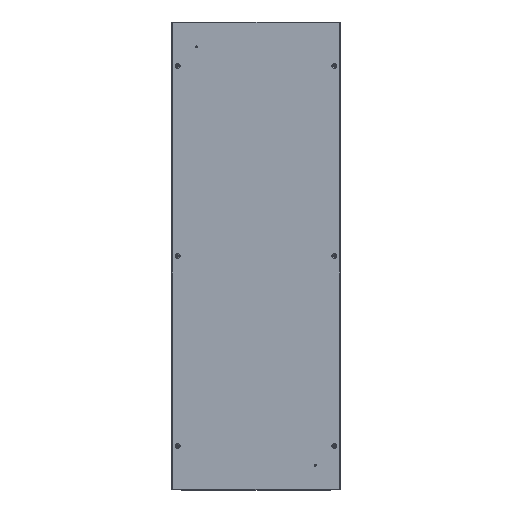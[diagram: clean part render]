
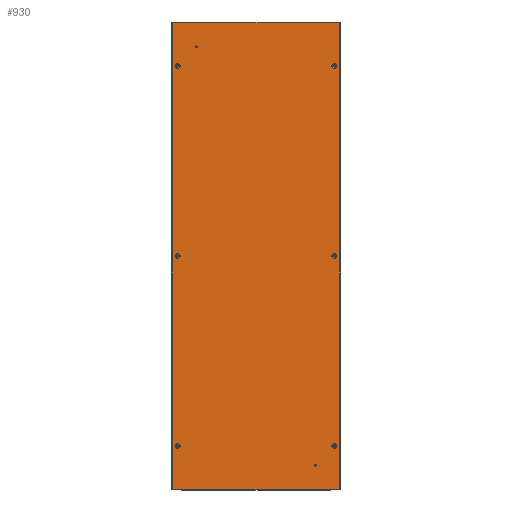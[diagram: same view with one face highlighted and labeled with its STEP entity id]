
A CAD part, top view. The second image highlights one B-rep face of the part: STEP entity #930.
In plain terms, the highlighted planar face has unit normal (0, 0, 1).
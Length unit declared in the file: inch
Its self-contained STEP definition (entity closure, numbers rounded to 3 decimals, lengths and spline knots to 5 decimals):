
#176 = EDGE_CURVE ( 'NONE', #5387, #3804, #2799, .T. ) ;
#190 = EDGE_CURVE ( 'NONE', #3899, #3805, #2814, .T. ) ;
#210 = EDGE_CURVE ( 'NONE', #3900, #3882, #2837, .T. ) ;
#278 = EDGE_CURVE ( 'NONE', #3867, #3821, #2111, .T. ) ;
#279 = EDGE_CURVE ( 'NONE', #3808, #3867, #2104, .T. ) ;
#280 = EDGE_CURVE ( 'NONE', #3821, #3818, #2115, .T. ) ;
#281 = EDGE_CURVE ( 'NONE', #3882, #3900, #2119, .T. ) ;
#282 = EDGE_CURVE ( 'NONE', #3933, #3926, #2120, .T. ) ;
#283 = EDGE_CURVE ( 'NONE', #3804, #5387, #2122, .T. ) ;
#284 = EDGE_CURVE ( 'NONE', #3818, #3808, #2106, .T. ) ;
#285 = EDGE_CURVE ( 'NONE', #3993, #5708, #2123, .T. ) ;
#286 = EDGE_CURVE ( 'NONE', #3805, #3899, #2125, .T. ) ;
#287 = EDGE_CURVE ( 'NONE', #5344, #3851, #2127, .T. ) ;
#543 = CARTESIAN_POINT ( 'NONE',  ( 10.1375, 0., 0.055 ) ) ;
#930 = ADVANCED_FACE ( 'NONE', ( #2716, #2715, #2719, #2721, #2717, #2714, #2718 ), #4042, .T. ) ;
#1044 = EDGE_CURVE ( 'NONE', #3926, #3933, #2047, .T. ) ;
#1098 = EDGE_CURVE ( 'NONE', #5708, #3993, #1877, .T. ) ;
#1205 = EDGE_CURVE ( 'NONE', #3851, #5344, #6676, .T. ) ;
#1214 = AXIS2_PLACEMENT_3D ( 'NONE', #5339, #5337, #5336 ) ;
#1229 = AXIS2_PLACEMENT_3D ( 'NONE', #5279, #5278, #5277 ) ;
#1247 = AXIS2_PLACEMENT_3D ( 'NONE', #1704, #1700, #1696 ) ;
#1269 = AXIS2_PLACEMENT_3D ( 'NONE', #3785, #3769, #3773 ) ;
#1270 = AXIS2_PLACEMENT_3D ( 'NONE', #3781, #3779, #3768 ) ;
#1271 = AXIS2_PLACEMENT_3D ( 'NONE', #3780, #3774, #3783 ) ;
#1272 = AXIS2_PLACEMENT_3D ( 'NONE', #3788, #3777, #3764 ) ;
#1274 = AXIS2_PLACEMENT_3D ( 'NONE', #3786, #3789, #3766 ) ;
#1275 = AXIS2_PLACEMENT_3D ( 'NONE', #3763, #3778, #3784 ) ;
#1338 = AXIS2_PLACEMENT_3D ( 'NONE', #4038, #4049, #4050 ) ;
#1427 = AXIS2_PLACEMENT_3D ( 'NONE', #2726, #2727, #2728 ) ;
#1467 = AXIS2_PLACEMENT_3D ( 'NONE', #543, #2363, #2364 ) ;
#1510 = AXIS2_PLACEMENT_3D ( 'NONE', #3427, #3429, #3430 ) ;
#1696 = DIRECTION ( 'NONE',  ( 0., -1., 0. ) ) ;
#1700 = DIRECTION ( 'NONE',  ( 0., 0., 1. ) ) ;
#1704 = CARTESIAN_POINT ( 'NONE',  ( -10.1375, 24.6065, 0.055 ) ) ;
#1877 = CIRCLE ( 'NONE', #1467, 0.3115 ) ;
#2047 = CIRCLE ( 'NONE', #1427, 0.3115 ) ;
#2103 = VECTOR ( 'NONE', #3787, 39.37008 ) ;
#2104 = LINE ( 'NONE', #3770, #2113 ) ;
#2106 = LINE ( 'NONE', #3765, #2117 ) ;
#2111 = LINE ( 'NONE', #3795, #2103 ) ;
#2113 = VECTOR ( 'NONE', #3771, 39.37008 ) ;
#2115 = LINE ( 'NONE', #3772, #2116 ) ;
#2116 = VECTOR ( 'NONE', #3775, 39.37008 ) ;
#2117 = VECTOR ( 'NONE', #3767, 39.37008 ) ;
#2119 = CIRCLE ( 'NONE', #1270, 0.3115 ) ;
#2120 = CIRCLE ( 'NONE', #1269, 0.3115 ) ;
#2122 = CIRCLE ( 'NONE', #1271, 0.3115 ) ;
#2123 = CIRCLE ( 'NONE', #1274, 0.3115 ) ;
#2125 = CIRCLE ( 'NONE', #1272, 0.3115 ) ;
#2127 = CIRCLE ( 'NONE', #1275, 0.3115 ) ;
#2363 = DIRECTION ( 'NONE',  ( 0., 0., 1. ) ) ;
#2364 = DIRECTION ( 'NONE',  ( 0., -1., 0. ) ) ;
#2576 = ORIENTED_EDGE ( 'NONE', *, *, #282, .F. ) ;
#2577 = ORIENTED_EDGE ( 'NONE', *, *, #1044, .F. ) ;
#2578 = ORIENTED_EDGE ( 'NONE', *, *, #283, .F. ) ;
#2579 = ORIENTED_EDGE ( 'NONE', *, *, #176, .F. ) ;
#2580 = ORIENTED_EDGE ( 'NONE', *, *, #281, .F. ) ;
#2581 = ORIENTED_EDGE ( 'NONE', *, *, #210, .F. ) ;
#2582 = ORIENTED_EDGE ( 'NONE', *, *, #278, .T. ) ;
#2583 = ORIENTED_EDGE ( 'NONE', *, *, #280, .T. ) ;
#2584 = ORIENTED_EDGE ( 'NONE', *, *, #284, .T. ) ;
#2585 = ORIENTED_EDGE ( 'NONE', *, *, #279, .T. ) ;
#2586 = ORIENTED_EDGE ( 'NONE', *, *, #286, .F. ) ;
#2587 = ORIENTED_EDGE ( 'NONE', *, *, #190, .F. ) ;
#2588 = ORIENTED_EDGE ( 'NONE', *, *, #287, .F. ) ;
#2589 = ORIENTED_EDGE ( 'NONE', *, *, #1205, .F. ) ;
#2590 = ORIENTED_EDGE ( 'NONE', *, *, #285, .F. ) ;
#2591 = ORIENTED_EDGE ( 'NONE', *, *, #1098, .F. ) ;
#2714 = FACE_BOUND ( 'NONE', #6961, .T. ) ;
#2715 = FACE_BOUND ( 'NONE', #6966, .T. ) ;
#2716 = FACE_BOUND ( 'NONE', #4382, .T. ) ;
#2717 = FACE_BOUND ( 'NONE', #6985, .T. ) ;
#2718 = FACE_BOUND ( 'NONE', #6960, .T. ) ;
#2719 = FACE_BOUND ( 'NONE', #6965, .T. ) ;
#2721 = FACE_OUTER_BOUND ( 'NONE', #6964, .T. ) ;
#2726 = CARTESIAN_POINT ( 'NONE',  ( -10.1375, 0., 0.055 ) ) ;
#2727 = DIRECTION ( 'NONE',  ( 0., 0., 1. ) ) ;
#2728 = DIRECTION ( 'NONE',  ( 0., -1., 0. ) ) ;
#2799 = CIRCLE ( 'NONE', #1214, 0.3115 ) ;
#2814 = CIRCLE ( 'NONE', #1229, 0.3115 ) ;
#2837 = CIRCLE ( 'NONE', #1247, 0.3115 ) ;
#3427 = CARTESIAN_POINT ( 'NONE',  ( 10.1375, -24.6065, 0.055 ) ) ;
#3429 = DIRECTION ( 'NONE',  ( 0., 0., 1. ) ) ;
#3430 = DIRECTION ( 'NONE',  ( 0., -1., 0. ) ) ;
#3449 = CARTESIAN_POINT ( 'NONE',  ( 10.1375, 24.295, 0.055 ) ) ;
#3453 = CARTESIAN_POINT ( 'NONE',  ( -10.1375, -24.918, 0.055 ) ) ;
#3455 = CARTESIAN_POINT ( 'NONE',  ( 10.7785, -30.1805, 0.055 ) ) ;
#3462 = CARTESIAN_POINT ( 'NONE',  ( -10.7785, -30.1805, 0.055 ) ) ;
#3465 = CARTESIAN_POINT ( 'NONE',  ( -10.7785, 30.1805, 0.055 ) ) ;
#3495 = CARTESIAN_POINT ( 'NONE',  ( 10.1375, -24.295, 0.055 ) ) ;
#3511 = CARTESIAN_POINT ( 'NONE',  ( 10.7785, 30.1805, 0.055 ) ) ;
#3526 = CARTESIAN_POINT ( 'NONE',  ( -10.1375, 24.295, 0.055 ) ) ;
#3543 = CARTESIAN_POINT ( 'NONE',  ( -10.1375, -24.295, 0.055 ) ) ;
#3544 = CARTESIAN_POINT ( 'NONE',  ( -10.1375, 24.918, 0.055 ) ) ;
#3763 = CARTESIAN_POINT ( 'NONE',  ( 10.1375, -24.6065, 0.055 ) ) ;
#3764 = DIRECTION ( 'NONE',  ( 0., -1., 0. ) ) ;
#3765 = CARTESIAN_POINT ( 'NONE',  ( -10.83843, -30.1805, 0.055 ) ) ;
#3766 = DIRECTION ( 'NONE',  ( 0., -1., 0. ) ) ;
#3767 = DIRECTION ( 'NONE',  ( 1., 0., 0. ) ) ;
#3768 = DIRECTION ( 'NONE',  ( 0., -1., 0. ) ) ;
#3769 = DIRECTION ( 'NONE',  ( 0., 0., 1. ) ) ;
#3770 = CARTESIAN_POINT ( 'NONE',  ( 10.7785, -30.24043, 0.055 ) ) ;
#3771 = DIRECTION ( 'NONE',  ( 0., 1., 0. ) ) ;
#3772 = CARTESIAN_POINT ( 'NONE',  ( -10.7785, 30.24043, 0.055 ) ) ;
#3773 = DIRECTION ( 'NONE',  ( 0., -1., 0. ) ) ;
#3774 = DIRECTION ( 'NONE',  ( 0., 0., 1. ) ) ;
#3775 = DIRECTION ( 'NONE',  ( 0., -1., 0. ) ) ;
#3777 = DIRECTION ( 'NONE',  ( 0., 0., 1. ) ) ;
#3778 = DIRECTION ( 'NONE',  ( 0., 0., 1. ) ) ;
#3779 = DIRECTION ( 'NONE',  ( 0., 0., 1. ) ) ;
#3780 = CARTESIAN_POINT ( 'NONE',  ( 10.1375, 24.6065, 0.055 ) ) ;
#3781 = CARTESIAN_POINT ( 'NONE',  ( -10.1375, 24.6065, 0.055 ) ) ;
#3783 = DIRECTION ( 'NONE',  ( 0., -1., 0. ) ) ;
#3784 = DIRECTION ( 'NONE',  ( 0., -1., 0. ) ) ;
#3785 = CARTESIAN_POINT ( 'NONE',  ( -10.1375, 0., 0.055 ) ) ;
#3786 = CARTESIAN_POINT ( 'NONE',  ( 10.1375, 0., 0.055 ) ) ;
#3787 = DIRECTION ( 'NONE',  ( -1., 0., 0. ) ) ;
#3788 = CARTESIAN_POINT ( 'NONE',  ( -10.1375, -24.6065, 0.055 ) ) ;
#3789 = DIRECTION ( 'NONE',  ( 0., 0., 1. ) ) ;
#3795 = CARTESIAN_POINT ( 'NONE',  ( 10.83843, 30.1805, 0.055 ) ) ;
#3804 = VERTEX_POINT ( 'NONE', #3449 ) ;
#3805 = VERTEX_POINT ( 'NONE', #3453 ) ;
#3808 = VERTEX_POINT ( 'NONE', #3455 ) ;
#3818 = VERTEX_POINT ( 'NONE', #3462 ) ;
#3821 = VERTEX_POINT ( 'NONE', #3465 ) ;
#3851 = VERTEX_POINT ( 'NONE', #3495 ) ;
#3867 = VERTEX_POINT ( 'NONE', #3511 ) ;
#3882 = VERTEX_POINT ( 'NONE', #3526 ) ;
#3899 = VERTEX_POINT ( 'NONE', #3543 ) ;
#3900 = VERTEX_POINT ( 'NONE', #3544 ) ;
#3926 = VERTEX_POINT ( 'NONE', #5399 ) ;
#3933 = VERTEX_POINT ( 'NONE', #5406 ) ;
#3993 = VERTEX_POINT ( 'NONE', #5466 ) ;
#4038 = CARTESIAN_POINT ( 'NONE',  ( -10.8935, -30.2955, 0.055 ) ) ;
#4042 = PLANE ( 'NONE',  #1338 ) ;
#4049 = DIRECTION ( 'NONE',  ( 0., 0., 1. ) ) ;
#4050 = DIRECTION ( 'NONE',  ( 1., 0., 0. ) ) ;
#4382 = EDGE_LOOP ( 'NONE', ( #2576, #2577 ) ) ;
#5277 = DIRECTION ( 'NONE',  ( 0., -1., 0. ) ) ;
#5278 = DIRECTION ( 'NONE',  ( 0., 0., 1. ) ) ;
#5279 = CARTESIAN_POINT ( 'NONE',  ( -10.1375, -24.6065, 0.055 ) ) ;
#5336 = DIRECTION ( 'NONE',  ( 0., -1., 0. ) ) ;
#5337 = DIRECTION ( 'NONE',  ( 0., 0., 1. ) ) ;
#5339 = CARTESIAN_POINT ( 'NONE',  ( 10.1375, 24.6065, 0.055 ) ) ;
#5344 = VERTEX_POINT ( 'NONE', #5496 ) ;
#5387 = VERTEX_POINT ( 'NONE', #5529 ) ;
#5399 = CARTESIAN_POINT ( 'NONE',  ( -10.1375, 0.3115, 0.055 ) ) ;
#5406 = CARTESIAN_POINT ( 'NONE',  ( -10.1375, -0.3115, 0.055 ) ) ;
#5466 = CARTESIAN_POINT ( 'NONE',  ( 10.1375, -0.3115, 0.055 ) ) ;
#5496 = CARTESIAN_POINT ( 'NONE',  ( 10.1375, -24.918, 0.055 ) ) ;
#5529 = CARTESIAN_POINT ( 'NONE',  ( 10.1375, 24.918, 0.055 ) ) ;
#5586 = CARTESIAN_POINT ( 'NONE',  ( 10.1375, 0.3115, 0.055 ) ) ;
#5708 = VERTEX_POINT ( 'NONE', #5586 ) ;
#6676 = CIRCLE ( 'NONE', #1510, 0.3115 ) ;
#6960 = EDGE_LOOP ( 'NONE', ( #2590, #2591 ) ) ;
#6961 = EDGE_LOOP ( 'NONE', ( #2588, #2589 ) ) ;
#6964 = EDGE_LOOP ( 'NONE', ( #2582, #2583, #2584, #2585 ) ) ;
#6965 = EDGE_LOOP ( 'NONE', ( #2580, #2581 ) ) ;
#6966 = EDGE_LOOP ( 'NONE', ( #2578, #2579 ) ) ;
#6985 = EDGE_LOOP ( 'NONE', ( #2586, #2587 ) ) ;
